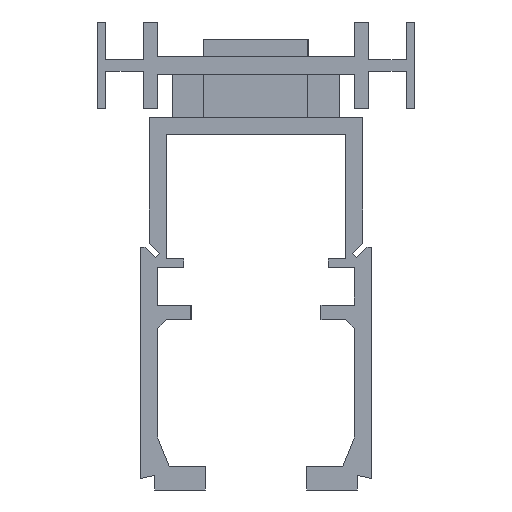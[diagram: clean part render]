
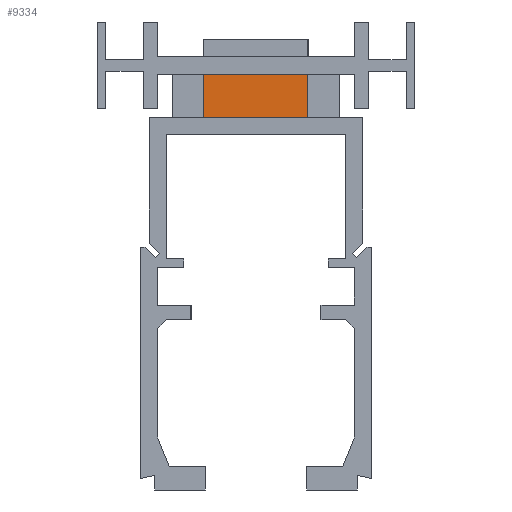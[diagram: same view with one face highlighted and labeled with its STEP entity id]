
A CAD part, left-side view. The second image highlights one B-rep face of the part: STEP entity #9334.
In plain terms, the highlighted planar face has unit normal (-1, 0, 0).
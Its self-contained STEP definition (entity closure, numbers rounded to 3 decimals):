
#9334=ADVANCED_FACE('',(#15949),#15950,.T.);
#15949=FACE_OUTER_BOUND('',#25607,.T.);
#15950=PLANE('',#25608);
#25607=EDGE_LOOP('',(#30514,#30515,#30516,#30517));
#25608=AXIS2_PLACEMENT_3D('',#30518,#30519,#30520);
#30514=ORIENTED_EDGE('',*,*,#38219,.T.);
#30515=ORIENTED_EDGE('',*,*,#38238,.F.);
#30516=ORIENTED_EDGE('',*,*,#38226,.F.);
#30517=ORIENTED_EDGE('',*,*,#38236,.F.);
#30518=CARTESIAN_POINT('',(126.5,36.5,76.0));
#30519=DIRECTION('',(-1.0,0.,0.0));
#30520=DIRECTION('',(0.0,0.0,-1.0));
#38219=EDGE_CURVE('',#43264,#43262,#43265,.T.);
#38226=EDGE_CURVE('',#43275,#43277,#43278,.T.);
#38236=EDGE_CURVE('',#43264,#43275,#43290,.T.);
#38238=EDGE_CURVE('',#43277,#43262,#43292,.T.);
#43262=VERTEX_POINT('',#45369);
#43264=VERTEX_POINT('',#45372);
#43265=LINE('',#45373,#45374);
#43275=VERTEX_POINT('',#45388);
#43277=VERTEX_POINT('',#45391);
#43278=LINE('',#45392,#45393);
#43290=LINE('',#45411,#45412);
#43292=LINE('',#45414,#45415);
#45369=CARTESIAN_POINT('',(126.5,36.5,64.5));
#45372=CARTESIAN_POINT('',(126.5,36.5,75.0));
#45373=CARTESIAN_POINT('',(126.5,36.5,76.0));
#45374=VECTOR('',#47193,1.0);
#45388=CARTESIAN_POINT('',(126.5,18.5,75.0));
#45391=CARTESIAN_POINT('',(126.5,18.5,64.5));
#45392=CARTESIAN_POINT('',(126.5,18.5,76.0));
#45393=VECTOR('',#47199,1.0);
#45411=CARTESIAN_POINT('',(126.5,36.5,75.0));
#45412=VECTOR('',#47206,1.0);
#45414=CARTESIAN_POINT('',(126.5,22.75,64.5));
#45415=VECTOR('',#47207,1.0);
#47193=DIRECTION('',(0.0,0.0,-1.0));
#47199=DIRECTION('',(0.0,0.0,-1.0));
#47206=DIRECTION('',(0.,-1.0,0.0));
#47207=DIRECTION('',(0.,1.0,0.0));
